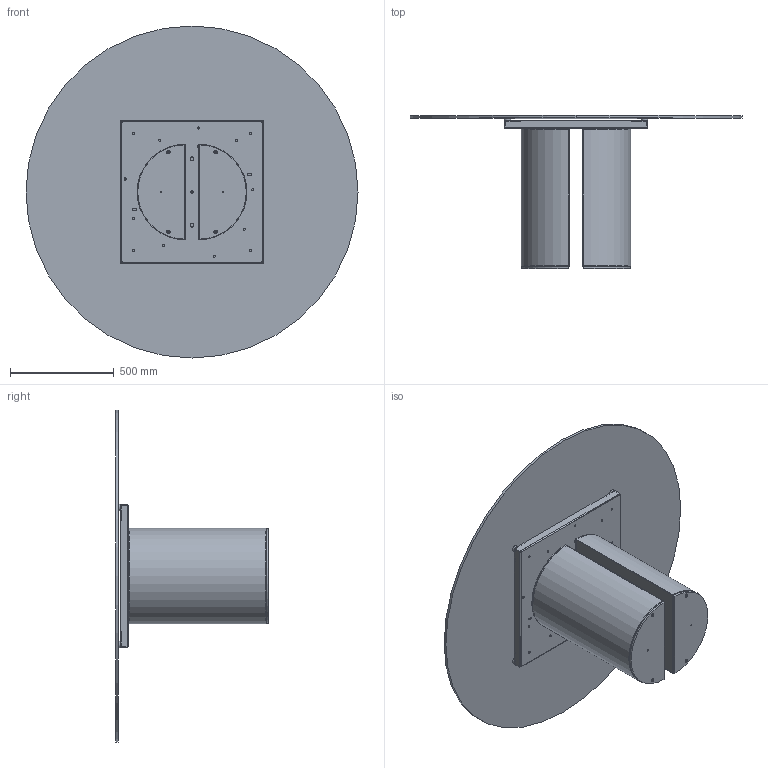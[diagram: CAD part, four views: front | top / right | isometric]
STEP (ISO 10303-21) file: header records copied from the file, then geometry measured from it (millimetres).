
FILE_DESCRIPTION (( 'STEP AP203' ), '1' );
FILE_NAME ('DR08G.STEP', '2024-08-06T13:01:01', ( '' ), ( '' ), 'SwSTEP 2.0', 'SolidWorks 2022', '' );
FILE_SCHEMA (( 'CONFIG_CONTROL_DESIGN' ));
Length unit declared in the file: millimetre
Products named in the file (12): M8xXXmm_hex_M8X60mm; DR08G; COLLO TELAIO UNIVERSALE TTAV0801 CON FERRAMENTA_MTG TOP CRISTALLO VERNICIATO-CERAMICA; TTAV0801 TELAIO UNIVERSALE TONDO-PIASTRINA; 434070-00-PIEDINO TPV GOMMA NERO D. 30x8max18_filo estetico; PLA000000BAS-00-PLAI BASE GREZZA; C1XCRMXX-00-piani Rotondi Cristallo_C08 D.160cm; M8xXXmm_hex_M8X20mm; TTAV0801-02-TELAIO UNIVERSALE TONDO-VASSOIO; TTAV0801-02-TELAIO UNIVERSALE TONDO; Assieme Basamento PLAI_Basamento per tavoli; PLA000000ZOC-01-PLAI ZOCCOLO DELLA BASE
Assembly tree (18 placements, depth 4):
  DR08G
    Assieme Basamento PLAI_Basamento per tavoli  x2
      PLA000000BAS-00-PLAI BASE GREZZA
      PLA000000ZOC-01-PLAI ZOCCOLO DELLA BASE
      M8xXXmm_hex_M8X60mm
      M8xXXmm_hex_M8X20mm
    COLLO TELAIO UNIVERSALE TTAV0801 CON FERRAMENTA_MTG TOP CRISTALLO VERNICIATO-CERAMICA
      TTAV0801-02-TELAIO UNIVERSALE TONDO
        TTAV0801-02-TELAIO UNIVERSALE TONDO-VASSOIO
        TTAV0801 TELAIO UNIVERSALE TONDO-PIASTRINA  x4
      434070-00-PIEDINO TPV GOMMA NERO D. 30x8max18_filo estetico  x4
    C1XCRMXX-00-piani Rotondi Cristallo_C08 D.160cm
Bounding box: 1600 x 736 x 1600 mm (x, y, z)
Volume: 31992872.9 mm3; surface area: 9134174.2 mm2
Topology: 28 solids, 28 shells, 706 faces, 1778 edges, 1124 vertices
Faces by surface type: plane 358, cylinder 288, cone 36, torus 24
Entity records: 14853 total; most frequent: DIRECTION 2427, CARTESIAN_POINT 2288, ORIENTED_EDGE 2238, EDGE_CURVE 1119, AXIS2_PLACEMENT_3D 853, LINE 721, VECTOR 721, VERTEX_POINT 714
